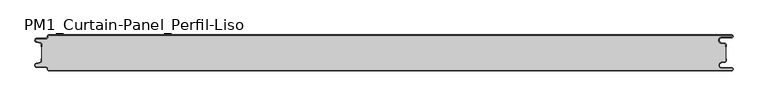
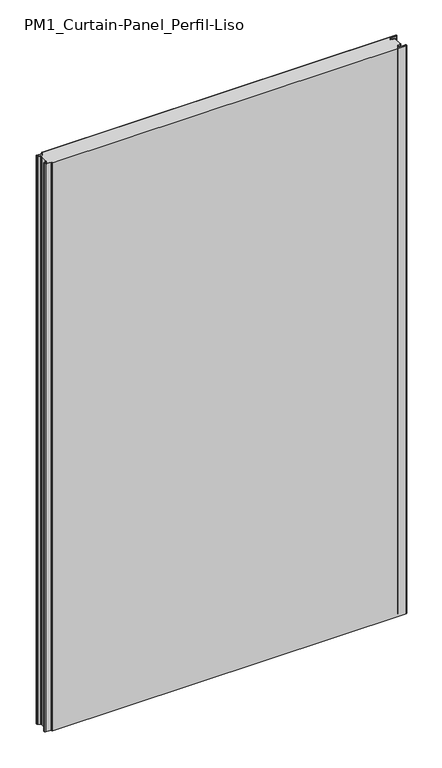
"""IFC4 building model written with IfcOpenShell, lengths in millimetres: plate geometry, PM1_Curtain-Panel_Perfil-Liso : ACH_PM1_Panel-Acústico-Sectorización_60M."""

import ifcopenshell
import ifcopenshell.guid

model = None  # the IFC model being written
_history = None  # IfcOwnerHistory: only IFC2X3 demands one
_inside = {}  # id of a spatial element -> (the spatial element, [elements in it])
_under = {}  # id of a project, library or spatial element -> (it, [spatial elements below it])
_declared = {}  # id of a project -> (the project, [libraries it declares])
_typed = {}  # id of a type object -> (the type object, [elements of that type])
_made_of = {}  # id of a material, layer set ... -> (it, [elements and type objects made of it])


def new_model(schema):
    """Start an empty IFC model of exactly this schema.

    Asked for "IFC4X3", IfcOpenShell would pick the latest addendum, in which some entities
    have other attributes; the version numbers below select the first issue.
    IFC2X3 requires an IfcOwnerHistory on every rooted entity: one is made here for all.
    """
    global model, _history
    if schema == "IFC4X3":
        model = ifcopenshell.file(schema_version=(4, 3, 0, 0))
    else:
        model = ifcopenshell.file(schema=schema)
    _inside.clear()
    _under.clear()
    _declared.clear()
    _typed.clear()
    _made_of.clear()
    _history = None
    if model.schema == "IFC2X3":
        org = make("IfcOrganization", Name="unknown")
        user = make(
            "IfcPersonAndOrganization",
            ThePerson=make("IfcPerson", FamilyName="unknown"),
            TheOrganization=org,
        )
        app = make(
            "IfcApplication",
            ApplicationDeveloper=org,
            Version="unknown",
            ApplicationFullName="unknown",
            ApplicationIdentifier="unknown",
        )
        _history = make(
            "IfcOwnerHistory",
            OwningUser=user,
            OwningApplication=app,
            ChangeAction="ADDED",
            CreationDate=0,
        )
    return model


def make(cls, **values):
    """One entity of the class cls with the attributes given. An attribute that is None is left unset."""
    return model.create_entity(
        cls, **{name: value for name, value in values.items() if value is not None}
    )


def rooted(cls, **values):
    """An entity with a GlobalId (a new one), such as an element, a storey or a relation."""
    return make(cls, GlobalId=ifcopenshell.guid.new(), OwnerHistory=_history, **values)


def si_unit(unit_type, name, prefix=None):
    """IfcSIUnit, for example si_unit("LENGTHUNIT", "METRE", prefix="MILLI")."""
    return make("IfcSIUnit", UnitType=unit_type, Prefix=prefix, Name=name)


def assignment(units):
    """IfcUnitAssignment: the units of a project."""
    return None if units is None else make("IfcUnitAssignment", Units=units)


def point(xyz):
    """IfcCartesianPoint."""
    return None if xyz is None else make("IfcCartesianPoint", Coordinates=xyz)


def direction(xyz):
    """IfcDirection."""
    return None if xyz is None else make("IfcDirection", DirectionRatios=xyz)


def frame(location, z_axis=None, x_axis=None):
    """IfcAxis2Placement3D, a coordinate frame: its origin and axes. An axis left out is left unset."""
    return make(
        "IfcAxis2Placement3D",
        Location=point(location),
        Axis=direction(z_axis),
        RefDirection=direction(x_axis),
    )


def frame_2d(location, x_axis=None):
    """IfcAxis2Placement2D, a coordinate frame in the plane: its origin and x axis."""
    return make(
        "IfcAxis2Placement2D", Location=point(location), RefDirection=direction(x_axis)
    )


def origin():
    """The frame at (0, 0, 0) with its axes left unset."""
    return frame((0.0, 0.0, 0.0))


def origin_with_axes():
    """The frame at (0, 0, 0) with the z axis (0, 0, 1) and the x axis (1, 0, 0) written out."""
    return frame((0.0, 0.0, 0.0), z_axis=(0.0, 0.0, 1.0), x_axis=(1.0, 0.0, 0.0))


def place(relative_to, where):
    """IfcLocalPlacement: puts the frame where relative to a parent placement (None: the world)."""
    return make(
        "IfcLocalPlacement", PlacementRelTo=relative_to, RelativePlacement=where
    )


def context(
    kind, dimensions, precision=None, world=None, true_north=None, identifier=None
):
    """IfcGeometricRepresentationContext, for example the 3D "Model" context."""
    return make(
        "IfcGeometricRepresentationContext",
        ContextIdentifier=identifier,
        ContextType=kind,
        CoordinateSpaceDimension=dimensions,
        Precision=precision,
        WorldCoordinateSystem=world,
        TrueNorth=true_north,
    )


def project(units=None, contexts=None):
    """IfcProject with its units and contexts."""
    return rooted(
        "IfcProject",
        Name="project",
        RepresentationContexts=contexts,
        UnitsInContext=assignment(units),
    )


def spatial(cls, under=None, at=None, **own):
    """A site, building, storey or space (cls), placed at a placement, below another one or the project."""
    s = rooted(cls, ObjectPlacement=at, **own)
    if under is not None:
        _under.setdefault(under.id(), (under, []))[1].append(s)
    return s


def polyline(points):
    """IfcPolyline through the points."""
    return make("IfcPolyline", Points=[point(p) for p in points])


def circle_curve(where, radius):
    """IfcCircle in the frame where."""
    return make("IfcCircle", Position=where, Radius=radius)


def trimmed(basis, trim1, trim2, sense, master):
    """IfcTrimmedCurve: the piece of a basis curve between two trims."""
    return make(
        "IfcTrimmedCurve",
        BasisCurve=basis,
        Trim1=trim1,
        Trim2=trim2,
        SenseAgreement=sense,
        MasterRepresentation=master,
    )


def segment(curve, same_sense, transition):
    """IfcCompositeCurveSegment."""
    return make(
        "IfcCompositeCurveSegment",
        Transition=transition,
        SameSense=same_sense,
        ParentCurve=curve,
    )


def composite_curve(segments, self_intersect=None):
    """IfcCompositeCurve: segments joined end to end."""
    return make("IfcCompositeCurve", Segments=segments, SelfIntersect=self_intersect)


def outline(outer, holes=None, kind="AREA"):
    """IfcArbitraryClosedProfileDef: a profile drawn as a closed curve; with holes, ...WithVoids."""
    if holes is None:
        return make("IfcArbitraryClosedProfileDef", ProfileType=kind, OuterCurve=outer)
    return make(
        "IfcArbitraryProfileDefWithVoids",
        ProfileType=kind,
        OuterCurve=outer,
        InnerCurves=holes,
    )


def extrude(swept, where, along, depth):
    """IfcExtrudedAreaSolid: the profile swept, set in the frame where, extruded along a direction by depth."""
    return make(
        "IfcExtrudedAreaSolid",
        SweptArea=swept,
        Position=where,
        ExtrudedDirection=direction(along),
        Depth=depth,
    )


def shape(context_of_items, identifier, shape_type, items):
    """IfcShapeRepresentation: the items that make up one representation, for example the "Body"."""
    return make(
        "IfcShapeRepresentation",
        ContextOfItems=context_of_items,
        RepresentationIdentifier=identifier,
        RepresentationType=shape_type,
        Items=items,
    )


def source(mapping_origin, context_of_items, identifier, shape_type, items):
    """IfcRepresentationMap: a shape defined once, which mapped items show again and again."""
    return make(
        "IfcRepresentationMap",
        MappingOrigin=mapping_origin,
        MappedRepresentation=shape(context_of_items, identifier, shape_type, items),
    )


def transform(
    local_origin,
    x_axis=None,
    y_axis=None,
    z_axis=None,
    scale=None,
    scale2=None,
    scale3=None,
    uniform=True,
):
    """IfcCartesianTransformationOperator3D, or its non-uniform kind. x_axis, y_axis, z_axis: its Axis1, 2, 3."""
    if uniform:
        return make(
            "IfcCartesianTransformationOperator3D",
            Axis1=direction(x_axis),
            Axis2=direction(y_axis),
            LocalOrigin=point(local_origin),
            Scale=scale,
            Axis3=direction(z_axis),
        )
    return make(
        "IfcCartesianTransformationOperator3DnonUniform",
        Axis1=direction(x_axis),
        Axis2=direction(y_axis),
        LocalOrigin=point(local_origin),
        Scale=scale,
        Axis3=direction(z_axis),
        Scale2=scale2,
        Scale3=scale3,
    )


def mapped(mapping_source, mapping_target):
    """IfcMappedItem: shows the shape of a source again, moved by a transform."""
    return make(
        "IfcMappedItem", MappingSource=mapping_source, MappingTarget=mapping_target
    )


def made_of(thing, what):
    """Note that an element or type object is made of a material, layer set ...; save() writes the relation."""
    if what is not None:
        _made_of.setdefault(what.id(), (what, []))[1].append(thing)
    return thing


def element(
    cls,
    number,
    at=None,
    inside=None,
    cuts=None,
    type_object=None,
    material=None,
    context=None,
    identifier="Body",
    shape_type=None,
    held_by="IfcProductDefinitionShape",
    body=None,
    shapes=None,
    **own,
):
    """One element of the class cls, such as IfcWall. Its Tag is "e" and its number.

    at: its placement. inside: the storey or other place that contains it. cuts: it is an
    opening in that element (IfcRelVoidsElement). A single representation is given by context,
    identifier, shape_type and body (its items); several are given by shapes. held_by: the class
    of the entity that holds the representations. save() writes the other relations.
    """
    e = rooted(cls, Tag="e%d" % number, ObjectPlacement=at, **own)
    if body is not None:
        shapes = [shape(context, identifier, shape_type, body)]
    if shapes is not None:
        e.Representation = make(held_by, Representations=shapes)
    if inside is not None:
        _inside.setdefault(inside.id(), (inside, []))[1].append(e)
    if cuts is not None:
        rooted(
            "IfcRelVoidsElement", RelatingBuildingElement=cuts, RelatedOpeningElement=e
        )
    if type_object is not None:
        _typed.setdefault(type_object.id(), (type_object, []))[1].append(e)
    return made_of(e, material)


def aggregate(whole, parts):
    """IfcRelAggregates: a whole, such as a stair, and the parts it consists of."""
    return rooted("IfcRelAggregates", RelatingObject=whole, RelatedObjects=parts)


def save(model, path):
    """Write the relations noted so far, then the file.

    IfcRelAggregates (storeys below a building ...), IfcRelContainedInSpatialStructure (elements
    in a storey), IfcRelDefinesByType, IfcRelAssociatesMaterial and IfcRelDeclares: one each for
    every whole, place, type object, material and project.
    """
    for whole, parts in _under.values():
        aggregate(whole, parts)
    for where, things in _inside.values():
        rooted(
            "IfcRelContainedInSpatialStructure",
            RelatedElements=things,
            RelatingStructure=where,
        )
    for kind, things in _typed.values():
        rooted("IfcRelDefinesByType", RelatedObjects=things, RelatingType=kind)
    for what, things in _made_of.values():
        rooted("IfcRelAssociatesMaterial", RelatedObjects=things, RelatingMaterial=what)
    for by, libraries in _declared.values():
        rooted("IfcRelDeclares", RelatingContext=by, RelatedDefinitions=libraries)
    model.write(path)


def plane_surface(at):
    """IfcPlane: the flat surface through the origin of the frame at, square to its z axis."""
    return make("IfcPlane", Position=at)


def cylinder_surface(at, radius):
    """IfcCylindricalSurface: all points at the distance radius from the z axis of the frame at."""
    return make("IfcCylindricalSurface", Position=at, Radius=radius)


def revolved_surface(curve, axis_point, axis_direction):
    """IfcSurfaceOfRevolution: the curve turned about the line through axis_point along axis_direction."""
    return make(
        "IfcSurfaceOfRevolution",
        SweptCurve=make("IfcArbitraryOpenProfileDef", ProfileType="CURVE", Curve=curve),
        AxisPosition=make("IfcAxis1Placement", Location=point(axis_point), Axis=direction(axis_direction)),
    )


def advanced_brep(points, edges, surfaces, faces):
    """IfcAdvancedBrep: a solid bounded by faces that lie on surfaces and meet in shared edges.

    An edge is (start, end): straight between two places in points (the first is 0);
    or (start, end, curve); or (start, end, curve, False) where it runs against its curve.
    A face is (place in surfaces, loops), or (place, loops, False) where it looks against
    its surface's normal. A loop lists edges by number (the first is 1), with a minus sign
    where the edge is run from its end to its start. The first loop is the outer one.
    """
    corners = [point(p) for p in points]
    vertices = [make("IfcVertexPoint", VertexGeometry=c) for c in corners]
    made = []
    for start, end, *more in edges:
        made.append(
            make(
                "IfcEdgeCurve",
                EdgeStart=vertices[start],
                EdgeEnd=vertices[end],
                EdgeGeometry=more[0] if more else make("IfcPolyline", Points=[corners[start], corners[end]]),
                SameSense=more[1] if len(more) > 1 else True,
            )
        )
    hull = []
    for where, loops, *sense in faces:
        bounds = []
        for j, loop in enumerate(loops):
            ring = [make("IfcOrientedEdge", EdgeElement=made[abs(k) - 1], Orientation=k > 0) for k in loop]
            bounds.append(
                make(
                    "IfcFaceOuterBound" if j == 0 else "IfcFaceBound",
                    Bound=make("IfcEdgeLoop", EdgeList=ring),
                    Orientation=True,
                )
            )
        hull.append(make("IfcAdvancedFace", Bounds=bounds, FaceSurface=surfaces[where], SameSense=sense[0] if sense else True))
    return make("IfcAdvancedBrep", Outer=make("IfcClosedShell", CfsFaces=hull))


def pm1_curtain_panel_perfil_liso_60ec96a5(model_context):
    return source(origin(), model_context, "Body", "SolidModel", [
        advanced_brep(
        [(583.1, 0.0, 1945.7507136), (-562.4, 0.0, 1945.7507136), (-564.4, -2.0, 1945.7507136), (-564.4, -3.4, 1945.7507136), (-566.4, -5.4, 1945.7507136), (-581.9, -5.4, 1945.7507136), (-582.7098239, -12.5077322, 1945.7507136), (-576.5500979, -13.929817, 1945.7507136), (-575.0, -15.878557, 1945.7507136), (-575.0, -20.0, 1945.7507136), (-574.2, -20.0, 1945.7507136), (-574.2, -15.878557, 1945.7507136), (-576.370137, -13.1503208, 1945.7507136), (-582.529863, -11.728236, 1945.7507136), (-581.9, -6.2, 1945.7507136), (-566.4, -6.2, 1945.7507136), (-563.6, -3.4, 1945.7507136), (-563.6, -2.0, 1945.7507136), (-562.4, -0.8, 1945.7507136), (583.1, -0.8, 1945.7507136), (583.1, -4.2, 1945.7507136), (566.1, -4.2, 1945.7507136), (565.266489, -13.7270773, 1945.7507136), (571.7125666, -14.8636942, 1945.7507136), (573.2, -16.636348, 1945.7507136), (573.2, -20.0, 1945.7507136), (574.0, -20.0, 1945.7507136), (574.0, -16.636348, 1945.7507136), (571.8514851, -14.0758478, 1945.7507136), (565.4054075, -12.9392309, 1945.7507136), (566.1, -5.0, 1945.7507136), (583.1, -5.0, 1945.7507136), (585.6, -2.5, 1945.7507136), (-562.4, 0.0, 0.0), (583.1, 0.0, 0.0), (585.6, -2.5, 0.0), (583.1, -5.0, 0.0), (566.1, -5.0, 0.0), (565.4054075, -12.939231, 0.0), (571.8514851, -14.075848, 0.0), (574.0, -16.636348, 0.0), (574.0, -20.0, 0.0), (573.2, -20.0, 0.0), (573.2, -16.636348, 0.0), (571.7125666, -14.863694, 0.0), (565.266489, -13.7270771, 0.0), (566.1, -4.2, 0.0), (583.1, -4.2, 0.0), (583.1, -0.8, 0.0), (-562.4, -0.8, 0.0), (-563.6, -2.0, 0.0), (-563.6, -3.4, 0.0), (-566.4, -6.2, 0.0), (-581.9, -6.2, 0.0), (-582.529863, -11.7282362, 0.0), (-576.370137, -13.150321, 0.0), (-574.2, -15.878557, 0.0), (-574.2, -20.0, 0.0), (-575.0, -20.0, 0.0), (-575.0, -15.878557, 0.0), (-576.5500978, -13.9298169, 0.0), (-582.7098239, -12.507732, 0.0), (-581.9, -5.4, 0.0), (-566.4, -5.4, 0.0), (-564.4, -3.4, 0.0), (-564.4, -2.0, 0.0)],
        [
            (0, 1),
            (1, 2, circle_curve(frame((-562.4, -2.0, 1945.7507136), z_axis=(0.0, 0.0, 1.0), x_axis=(1.0, 0.0, 0.0)), 2.0)),
            (2, 3),
            (3, 4, circle_curve(frame((-566.4, -3.4, 1945.7507136), z_axis=(0.0, 0.0, -1.0), x_axis=(1.0, 0.0, 0.0)), 2.0)),
            (4, 5),
            (5, 6, circle_curve(frame((-581.9, -9.0, 1945.7507136), z_axis=(0.0, 0.0, 1.0), x_axis=(1.0, 0.0, 0.0)), 3.6)),
            (6, 7),
            (7, 8, circle_curve(frame((-577.0, -15.878557, 1945.7507136), z_axis=(0.0, 0.0, -1.0), x_axis=(1.0, 0.0, 0.0)), 2.0)),
            (8, 9),
            (9, 10),
            (10, 11),
            (11, 12, circle_curve(frame((-577.0, -15.878557, 1945.7507136), z_axis=(0.0, 0.0, 1.0), x_axis=(1.0, 0.0, 0.0)), 2.8)),
            (12, 13),
            (13, 14, circle_curve(frame((-581.9, -9.0, 1945.7507136), z_axis=(0.0, 0.0, -1.0), x_axis=(1.0, 0.0, 0.0)), 2.8)),
            (14, 15),
            (15, 16, circle_curve(frame((-566.4, -3.4, 1945.7507136), z_axis=(0.0, 0.0, 1.0), x_axis=(1.0, 0.0, 0.0)), 2.8)),
            (16, 17),
            (17, 18, circle_curve(frame((-562.4, -2.0, 1945.7507136), z_axis=(0.0, 0.0, -1.0), x_axis=(1.0, 0.0, 0.0)), 1.2)),
            (18, 19),
            (19, 20, circle_curve(frame((583.1, -2.5, 1945.7507136), z_axis=(0.0, 0.0, -1.0), x_axis=(1.0, 0.0, 0.0)), 1.7)),
            (20, 21),
            (21, 22, circle_curve(frame((566.1, -9.0, 1945.7507136), z_axis=(0.0, 0.0, 1.0), x_axis=(1.0, 0.0, 0.0)), 4.8)),
            (22, 23),
            (23, 24, circle_curve(frame((571.4, -16.636348, 1945.7507136), z_axis=(0.0, 0.0, -1.0), x_axis=(1.0, 0.0, 0.0)), 1.8)),
            (24, 25),
            (25, 26),
            (26, 27),
            (27, 28, circle_curve(frame((571.4, -16.636348, 1945.7507136), z_axis=(0.0, 0.0, 1.0), x_axis=(1.0, 0.0, 0.0)), 2.6)),
            (28, 29),
            (29, 30, circle_curve(frame((566.1, -9.0, 1945.7507136), z_axis=(0.0, 0.0, -1.0), x_axis=(1.0, 0.0, 0.0)), 4.0)),
            (30, 31),
            (31, 32, circle_curve(frame((583.1, -2.5, 1945.7507136), z_axis=(0.0, 0.0, 1.0), x_axis=(1.0, 0.0, 0.0)), 2.5)),
            (32, 0, circle_curve(frame((583.1, -2.5, 1945.7507136), z_axis=(0.0, 0.0, 1.0), x_axis=(1.0, 0.0, 0.0)), 2.5)),
            (33, 34),
            (34, 35, circle_curve(frame((583.1, -2.5, 0.0), z_axis=(0.0, 0.0, -1.0), x_axis=(1.0, 0.0, 0.0)), 2.5)),
            (35, 36, circle_curve(frame((583.1, -2.5, 0.0), z_axis=(0.0, 0.0, -1.0), x_axis=(1.0, 0.0, 0.0)), 2.5)),
            (36, 37),
            (37, 38, circle_curve(frame((566.1, -9.0, 0.0), z_axis=(0.0, 0.0, 1.0), x_axis=(1.0, 0.0, 0.0)), 4.0)),
            (38, 39),
            (39, 40, circle_curve(frame((571.4, -16.636348, 0.0), z_axis=(0.0, 0.0, -1.0), x_axis=(1.0, 0.0, 0.0)), 2.6)),
            (40, 41),
            (41, 42),
            (42, 43),
            (43, 44, circle_curve(frame((571.4, -16.636348, 0.0), z_axis=(0.0, 0.0, 1.0), x_axis=(1.0, 0.0, 0.0)), 1.8)),
            (44, 45),
            (45, 46, circle_curve(frame((566.1, -9.0, 0.0), z_axis=(0.0, 0.0, -1.0), x_axis=(1.0, 0.0, 0.0)), 4.8)),
            (46, 47),
            (47, 48, circle_curve(frame((583.1, -2.5, 0.0), z_axis=(0.0, 0.0, 1.0), x_axis=(1.0, 0.0, 0.0)), 1.7)),
            (48, 49),
            (49, 50, circle_curve(frame((-562.4, -2.0, 0.0), z_axis=(0.0, 0.0, 1.0), x_axis=(1.0, 0.0, 0.0)), 1.2)),
            (50, 51),
            (51, 52, circle_curve(frame((-566.4, -3.4, 0.0), z_axis=(0.0, 0.0, -1.0), x_axis=(1.0, 0.0, 0.0)), 2.8)),
            (52, 53),
            (53, 54, circle_curve(frame((-581.9, -9.0, 0.0), z_axis=(0.0, 0.0, 1.0), x_axis=(1.0, 0.0, 0.0)), 2.8)),
            (54, 55),
            (55, 56, circle_curve(frame((-577.0, -15.878557, 0.0), z_axis=(0.0, 0.0, -1.0), x_axis=(1.0, 0.0, 0.0)), 2.8)),
            (56, 57),
            (57, 58),
            (58, 59),
            (59, 60, circle_curve(frame((-577.0, -15.878557, 0.0), z_axis=(0.0, 0.0, 1.0), x_axis=(1.0, 0.0, 0.0)), 2.0)),
            (60, 61),
            (61, 62, circle_curve(frame((-581.9, -9.0, 0.0), z_axis=(0.0, 0.0, -1.0), x_axis=(1.0, 0.0, 0.0)), 3.6)),
            (62, 63),
            (63, 64, circle_curve(frame((-566.4, -3.4, 0.0), z_axis=(0.0, 0.0, 1.0), x_axis=(1.0, 0.0, 0.0)), 2.0)),
            (64, 65),
            (65, 33, circle_curve(frame((-562.4, -2.0, 0.0), z_axis=(0.0, 0.0, -1.0), x_axis=(1.0, 0.0, 0.0)), 2.0)),
            (1, 33),
            (65, 2),
            (64, 3),
            (63, 4),
            (62, 5),
            (61, 6),
            (60, 7),
            (59, 8),
            (58, 9),
            (57, 10),
            (56, 11),
            (55, 12),
            (54, 13),
            (53, 14),
            (52, 15),
            (51, 16),
            (50, 17),
            (49, 18),
            (48, 19),
            (47, 20),
            (46, 21),
            (45, 22),
            (44, 23),
            (43, 24),
            (42, 25),
            (41, 26),
            (40, 27),
            (39, 28),
            (38, 29),
            (37, 30),
            (36, 31),
            (34, 0),
        ],
        [
            plane_surface(frame((-575.0, 0.0, 1945.7507136), z_axis=(0.0, 0.0, 1.0), x_axis=(0.0, 1.0, 0.0))),
            plane_surface(frame((-575.0, 0.0, 0.0), z_axis=(0.0, 0.0, -1.0), x_axis=(0.0, 1.0, 0.0))),
            cylinder_surface(frame((-562.4, -2.0, 1945.7507136), z_axis=(0.0, 0.0, 1.0), x_axis=(1.0, 0.0, 0.0)), 2.0),
            plane_surface(frame((-564.4, -2.0, 1945.7507136), z_axis=(-1.0, 0.0, 0.0), x_axis=(0.0, 0.0, -1.0))),
            revolved_surface(polyline([(-564.4, -3.4, 0.0), (-564.4, -3.4, 1945.7507136)]), (-566.4, -3.4, 1945.7507136), (0.0, 0.0, -1.0)),
            plane_surface(frame((-566.4, -5.4, 1945.7507136), z_axis=(0.0, 1.0, 0.0), x_axis=(0.0, 0.0, -1.0))),
            cylinder_surface(frame((-581.9, -9.0, 1945.7507136), z_axis=(0.0, 0.0, 1.0), x_axis=(1.0, 0.0, 0.0)), 3.6),
            plane_surface(frame((-582.7098239, -12.507732, 1945.7507136), z_axis=(-0.2249510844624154, -0.9743700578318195, 0.0), x_axis=(0.0, 0.0, -1.0))),
            revolved_surface(polyline([(-575.0, -15.878557, 0.0), (-575.0, -15.878557, 1945.7507136)]), (-577.0, -15.878557, 1945.7507136), (0.0, 0.0, -1.0)),
            plane_surface(frame((-575.0, -15.878557, 1945.7507136), z_axis=(-1.0, 0.0, 0.0), x_axis=(0.0, 0.0, -1.0))),
            plane_surface(frame((-575.0, -20.0, 1945.7507136), z_axis=(0.0, -1.0, 0.0), x_axis=(0.0, 0.0, -1.0))),
            plane_surface(frame((-574.2, -20.0, 1945.7507136), z_axis=(1.0, 0.0, 0.0), x_axis=(0.0, 0.0, -1.0))),
            cylinder_surface(frame((-577.0, -15.878557, 1945.7507136), z_axis=(0.0, 0.0, 1.0), x_axis=(1.0, 0.0, 0.0)), 2.8),
            plane_surface(frame((-576.370137, -13.150321, 1945.7507136), z_axis=(0.22495108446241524, 0.9743700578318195, 0.0), x_axis=(0.0, 0.0, -1.0))),
            revolved_surface(polyline([(-579.1, -9.0, 0.0), (-579.1, -9.0, 1945.7507136)]), (-581.9, -9.0, 1945.7507136), (0.0, 0.0, -1.0)),
            plane_surface(frame((-581.9, -6.2, 1945.7507136), z_axis=(0.0, -1.0, 0.0), x_axis=(0.0, 0.0, -1.0))),
            cylinder_surface(frame((-566.4, -3.4, 1945.7507136), z_axis=(0.0, 0.0, 1.0), x_axis=(1.0, 0.0, 0.0)), 2.8),
            plane_surface(frame((-563.6, -3.4, 1945.7507136), z_axis=(1.0, 0.0, 0.0), x_axis=(0.0, 0.0, -1.0))),
            revolved_surface(polyline([(-561.1999999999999, -2.0, 0.0), (-561.1999999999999, -2.0, 1945.7507136)]), (-562.4, -2.0, 1945.7507136), (0.0, 0.0, -1.0)),
            plane_surface(frame((560.890897, -0.8, 1945.7507136), z_axis=(0.0, -1.0, 0.0), x_axis=(0.0, 0.0, -1.0))),
            revolved_surface(polyline([(584.8000000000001, -2.5, 0.0), (584.8000000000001, -2.5, 1945.7507136)]), (583.1, -2.5, 1945.7507136), (0.0, 0.0, -1.0)),
            plane_surface(frame((583.1, -4.2, 1945.7507136), z_axis=(0.0, 1.0, 0.0), x_axis=(0.0, 0.0, -1.0))),
            cylinder_surface(frame((566.1, -9.0, 1945.7507136), z_axis=(0.0, 0.0, 1.0), x_axis=(1.0, 0.0, 0.0)), 4.8),
            plane_surface(frame((565.266489, -13.7270771, 1945.7507136), z_axis=(-0.1736481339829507, -0.9848077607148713, 0.0), x_axis=(0.0, 0.0, -1.0))),
            revolved_surface(polyline([(573.1999999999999, -16.636348, 0.0), (573.1999999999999, -16.636348, 1945.7507136)]), (571.4, -16.636348, 1945.7507136), (0.0, 0.0, -1.0)),
            plane_surface(frame((573.2, -16.636348, 1945.7507136), z_axis=(-1.0, 0.0, 0.0), x_axis=(0.0, 0.0, -1.0))),
            plane_surface(frame((573.2, -20.0, 1945.7507136), z_axis=(0.0, -1.0, 0.0), x_axis=(0.0, 0.0, -1.0))),
            plane_surface(frame((574.0, -20.0, 1945.7507136), z_axis=(1.0, 0.0, 0.0), x_axis=(0.0, 0.0, -1.0))),
            cylinder_surface(frame((571.4, -16.636348, 1945.7507136), z_axis=(0.0, 0.0, 1.0), x_axis=(1.0, 0.0, 0.0)), 2.6),
            plane_surface(frame((571.8514851, -14.075848, 1945.7507136), z_axis=(0.17364813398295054, 0.9848077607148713, 0.0), x_axis=(0.0, 0.0, -1.0))),
            revolved_surface(polyline([(570.1, -9.0, 0.0), (570.1, -9.0, 1945.7507136)]), (566.1, -9.0, 1945.7507136), (0.0, 0.0, -1.0)),
            plane_surface(frame((566.1, -5.0, 1945.7507136), z_axis=(0.0, -1.0, 0.0), x_axis=(0.0, 0.0, -1.0))),
            cylinder_surface(frame((583.1, -2.5, 1945.7507136), z_axis=(0.0, 0.0, 1.0), x_axis=(1.0, 0.0, 0.0)), 2.5),
            plane_surface(frame((510.5961529, 0.0, 1945.7507136), z_axis=(0.0, 1.0, 0.0), x_axis=(0.0, 0.0, -1.0))),
        ],
        [
            (0, [[1, 2, 3, 4, 5, 6, 7, 8, 9, 10, 11, 12, 13, 14, 15, 16, 17, 18, 19, 20, 21, 22, 23, 24, 25, 26, 27, 28, 29, 30, 31, 32, 33]]),
            (1, [[34, 35, 36, 37, 38, 39, 40, 41, 42, 43, 44, 45, 46, 47, 48, 49, 50, 51, 52, 53, 54, 55, 56, 57, 58, 59, 60, 61, 62, 63, 64, 65, 66]]),
            (2, [[-2, 67, -66, 68]]),
            (3, [[-3, -68, -65, 69]]),
            (4, [[-4, -69, -64, 70]]),
            (5, [[-5, -70, -63, 71]]),
            (6, [[-6, -71, -62, 72]]),
            (7, [[-7, -72, -61, 73]]),
            (8, [[-8, -73, -60, 74]]),
            (9, [[-9, -74, -59, 75]]),
            (10, [[-10, -75, -58, 76]]),
            (11, [[-11, -76, -57, 77]]),
            (12, [[-12, -77, -56, 78]]),
            (13, [[-13, -78, -55, 79]]),
            (14, [[-14, -79, -54, 80]]),
            (15, [[-15, -80, -53, 81]]),
            (16, [[-16, -81, -52, 82]]),
            (17, [[-17, -82, -51, 83]]),
            (18, [[-18, -83, -50, 84]]),
            (19, [[-19, -84, -49, 85]]),
            (20, [[-20, -85, -48, 86]]),
            (21, [[-21, -86, -47, 87]]),
            (22, [[-22, -87, -46, 88]]),
            (23, [[-23, -88, -45, 89]]),
            (24, [[-24, -89, -44, 90]]),
            (25, [[-25, -90, -43, 91]]),
            (26, [[-26, -91, -42, 92]]),
            (27, [[-27, -92, -41, 93]]),
            (28, [[-28, -93, -40, 94]]),
            (29, [[-29, -94, -39, 95]]),
            (30, [[-30, -95, -38, 96]]),
            (31, [[-31, -96, -37, 97]]),
            (32, [[-97, -36, -35, 98, -33, -32]]),
            (33, [[-1, -98, -34, -67]]),
        ],
    ),
        extrude(outline(composite_curve([segment(polyline([(-574.2, -44.1214426), (-574.2, -15.8785573)]), True, "CONTINUOUS"), segment(trimmed(circle_curve(frame_2d((-577.0, -15.8785573)), 2.8), [point((-574.2, -15.8785573))], [point((-576.370137, -13.1503212))], True, "CARTESIAN"), True, "CONTINUOUS"), segment(polyline([(-576.370137, -13.1503212), (-582.5298631, -11.7282362)]), True, "CONTINUOUS"), segment(trimmed(circle_curve(frame_2d((-581.9, -9.0)), 2.8), [point((-582.5298631, -11.7282362))], [point((-581.9, -6.2))], False, "CARTESIAN"), True, "CONTINUOUS"), segment(polyline([(-581.9, -6.2), (-566.4000001, -6.2)]), True, "CONTINUOUS"), segment(trimmed(circle_curve(frame_2d((-566.4000001, -3.4)), 2.8), [point((-566.4000001, -6.2))], [point((-563.6000001, -3.4))], True, "CARTESIAN"), True, "CONTINUOUS"), segment(polyline([(-563.6000001, -3.4), (-563.6000001, -2.0)]), True, "CONTINUOUS"), segment(trimmed(circle_curve(frame_2d((-562.4000001, -2.0)), 1.2), [point((-563.6000001, -2.0))], [point((-562.4000001, -0.8))], False, "CARTESIAN"), True, "CONTINUOUS"), segment(polyline([(-562.4000001, -0.8), (583.1, -0.8)]), True, "CONTINUOUS"), segment(trimmed(circle_curve(frame_2d((583.1, -2.5)), 1.7), [point((583.1, -0.8))], [point((583.1, -4.2))], False, "CARTESIAN"), True, "CONTINUOUS"), segment(polyline([(583.1, -4.2), (566.1, -4.2)]), True, "CONTINUOUS"), segment(trimmed(circle_curve(frame_2d((566.1, -9.0)), 4.8), [point((566.1, -4.2))], [point((565.2664883, -13.7270771))], True, "CARTESIAN"), True, "CONTINUOUS"), segment(polyline([(565.2664883, -13.7270771), (571.7125668, -14.8636953)]), True, "CONTINUOUS"), segment(trimmed(circle_curve(frame_2d((571.4, -16.6363492)), 1.8), [point((571.7125668, -14.8636953))], [point((573.2, -16.6363492))], False, "CARTESIAN"), True, "CONTINUOUS"), segment(polyline([(573.2, -16.6363492), (573.2, -43.3636508)]), True, "CONTINUOUS"), segment(trimmed(circle_curve(frame_2d((571.4, -43.3636508)), 1.8), [point((573.2, -43.3636508))], [point((571.7125668, -45.1363047))], False, "CARTESIAN"), True, "CONTINUOUS"), segment(polyline([(571.7125668, -45.1363047), (565.2664883, -46.2729229)]), True, "CONTINUOUS"), segment(trimmed(circle_curve(frame_2d((566.1, -51.0)), 4.8), [point((565.2664883, -46.2729229))], [point((566.1, -55.8))], True, "CARTESIAN"), True, "CONTINUOUS"), segment(polyline([(566.1, -55.8), (583.1, -55.8)]), True, "CONTINUOUS"), segment(trimmed(circle_curve(frame_2d((583.1, -57.5)), 1.7), [point((583.1, -55.8))], [point((583.1, -59.2))], False, "CARTESIAN"), True, "CONTINUOUS"), segment(polyline([(583.1, -59.2), (-562.4000001, -59.2)]), True, "CONTINUOUS"), segment(trimmed(circle_curve(frame_2d((-562.4000001, -58.0)), 1.2), [point((-562.4000001, -59.2))], [point((-563.6000001, -58.0))], False, "CARTESIAN"), True, "CONTINUOUS"), segment(polyline([(-563.6000001, -58.0), (-563.6000001, -56.6)]), True, "CONTINUOUS"), segment(trimmed(circle_curve(frame_2d((-566.4000001, -56.6)), 2.8), [point((-563.6000001, -56.6))], [point((-566.4000001, -53.8))], True, "CARTESIAN"), True, "CONTINUOUS"), segment(polyline([(-566.4000001, -53.8), (-581.9, -53.8)]), True, "CONTINUOUS"), segment(trimmed(circle_curve(frame_2d((-581.9, -51.0)), 2.8), [point((-581.9, -53.8))], [point((-582.5298631, -48.2717638))], False, "CARTESIAN"), True, "CONTINUOUS"), segment(polyline([(-582.5298631, -48.2717638), (-576.370137, -46.8496788)]), True, "CONTINUOUS"), segment(trimmed(circle_curve(frame_2d((-577.0, -44.1214426)), 2.8), [point((-576.370137, -46.8496788))], [point((-574.2, -44.1214426))], True, "CARTESIAN"), True, "CONTINUOUS")], self_intersect=False)), origin_with_axes(), (0.0, 0.0, 1.0), 1945.7507136),
        advanced_brep(
        [(-562.4, -60.0, 1945.7507136), (583.1, -60.0, 1945.7507136), (585.6, -57.5, 1945.7507136), (583.1, -55.0, 1945.7507136), (566.1, -55.0, 1945.7507136), (565.4054075, -47.060769, 1945.7507136), (571.8514851, -45.924152, 1945.7507136), (574.0, -43.363652, 1945.7507136), (574.0, -40.0, 1945.7507136), (573.2, -40.0, 1945.7507136), (573.2, -43.363652, 1945.7507136), (571.7125666, -45.136306, 1945.7507136), (565.266489, -46.2729229, 1945.7507136), (566.1, -55.8, 1945.7507136), (583.1, -55.8, 1945.7507136), (583.1, -59.2, 1945.7507136), (-562.4, -59.2, 1945.7507136), (-563.6, -58.0, 1945.7507136), (-563.6, -56.6, 1945.7507136), (-566.4, -53.8, 1945.7507136), (-581.9, -53.8, 1945.7507136), (-582.529863, -48.2717638, 1945.7507136), (-576.370137, -46.849679, 1945.7507136), (-574.2, -44.121443, 1945.7507136), (-574.2, -40.0, 1945.7507136), (-575.0, -40.0, 1945.7507136), (-575.0, -44.121443, 1945.7507136), (-576.5500978, -46.0701831, 1945.7507136), (-582.7098239, -47.492268, 1945.7507136), (-581.9, -54.6, 1945.7507136), (-566.4, -54.6, 1945.7507136), (-564.4, -56.6, 1945.7507136), (-564.4, -58.0, 1945.7507136), (583.1, -60.0, 0.0), (-562.4, -60.0, 0.0), (-564.4, -58.0, 0.0), (-564.4, -56.6, 0.0), (-566.4, -54.6, 0.0), (-581.9, -54.6, 0.0), (-582.7098239, -47.4922678, 0.0), (-576.5500979, -46.070183, 0.0), (-575.0, -44.121443, 0.0), (-575.0, -40.0, 0.0), (-574.2, -40.0, 0.0), (-574.2, -44.121443, 0.0), (-576.370137, -46.8496792, 0.0), (-582.529863, -48.271764, 0.0), (-581.9, -53.8, 0.0), (-566.4, -53.8, 0.0), (-563.6, -56.6, 0.0), (-563.6, -58.0, 0.0), (-562.4, -59.2, 0.0), (583.1, -59.2, 0.0), (583.1, -55.8, 0.0), (566.1, -55.8, 0.0), (565.266489, -46.2729227, 0.0), (571.7125666, -45.1363058, 0.0), (573.2, -43.363652, 0.0), (573.2, -40.0, 0.0), (574.0, -40.0, 0.0), (574.0, -43.363652, 0.0), (571.8514851, -45.9241522, 0.0), (565.4054075, -47.0607691, 0.0), (566.1, -55.0, 0.0), (583.1, -55.0, 0.0), (585.6, -57.5, 0.0)],
        [
            (0, 1),
            (1, 2, circle_curve(frame((583.1, -57.5, 1945.7507136), z_axis=(0.0, 0.0, 1.0), x_axis=(1.0, 0.0, 0.0)), 2.5)),
            (2, 3, circle_curve(frame((583.1, -57.5, 1945.7507136), z_axis=(0.0, 0.0, 1.0), x_axis=(1.0, 0.0, 0.0)), 2.5)),
            (3, 4),
            (4, 5, circle_curve(frame((566.1, -51.0, 1945.7507136), z_axis=(0.0, 0.0, -1.0), x_axis=(1.0, 0.0, 0.0)), 4.0)),
            (5, 6),
            (6, 7, circle_curve(frame((571.4, -43.363652, 1945.7507136), z_axis=(0.0, 0.0, 1.0), x_axis=(1.0, 0.0, 0.0)), 2.6)),
            (7, 8),
            (8, 9),
            (9, 10),
            (10, 11, circle_curve(frame((571.4, -43.363652, 1945.7507136), z_axis=(0.0, 0.0, -1.0), x_axis=(1.0, 0.0, 0.0)), 1.8)),
            (11, 12),
            (12, 13, circle_curve(frame((566.1, -51.0, 1945.7507136), z_axis=(0.0, 0.0, 1.0), x_axis=(1.0, 0.0, 0.0)), 4.8)),
            (13, 14),
            (14, 15, circle_curve(frame((583.1, -57.5, 1945.7507136), z_axis=(0.0, 0.0, -1.0), x_axis=(1.0, 0.0, 0.0)), 1.7)),
            (15, 16),
            (16, 17, circle_curve(frame((-562.4, -58.0, 1945.7507136), z_axis=(0.0, 0.0, -1.0), x_axis=(1.0, 0.0, 0.0)), 1.2)),
            (17, 18),
            (18, 19, circle_curve(frame((-566.4, -56.6, 1945.7507136), z_axis=(0.0, 0.0, 1.0), x_axis=(1.0, 0.0, 0.0)), 2.8)),
            (19, 20),
            (20, 21, circle_curve(frame((-581.9, -51.0, 1945.7507136), z_axis=(0.0, 0.0, -1.0), x_axis=(1.0, 0.0, 0.0)), 2.8)),
            (21, 22),
            (22, 23, circle_curve(frame((-577.0, -44.121443, 1945.7507136), z_axis=(0.0, 0.0, 1.0), x_axis=(1.0, 0.0, 0.0)), 2.8)),
            (23, 24),
            (24, 25),
            (25, 26),
            (26, 27, circle_curve(frame((-577.0, -44.121443, 1945.7507136), z_axis=(0.0, 0.0, -1.0), x_axis=(1.0, 0.0, 0.0)), 2.0)),
            (27, 28),
            (28, 29, circle_curve(frame((-581.9, -51.0, 1945.7507136), z_axis=(0.0, 0.0, 1.0), x_axis=(1.0, 0.0, 0.0)), 3.6)),
            (29, 30),
            (30, 31, circle_curve(frame((-566.4, -56.6, 1945.7507136), z_axis=(0.0, 0.0, -1.0), x_axis=(1.0, 0.0, 0.0)), 2.0)),
            (31, 32),
            (32, 0, circle_curve(frame((-562.4, -58.0, 1945.7507136), z_axis=(0.0, 0.0, 1.0), x_axis=(1.0, 0.0, 0.0)), 2.0)),
            (33, 34),
            (34, 35, circle_curve(frame((-562.4, -58.0, 0.0), z_axis=(0.0, 0.0, -1.0), x_axis=(1.0, 0.0, 0.0)), 2.0)),
            (35, 36),
            (36, 37, circle_curve(frame((-566.4, -56.6, 0.0), z_axis=(0.0, 0.0, 1.0), x_axis=(1.0, 0.0, 0.0)), 2.0)),
            (37, 38),
            (38, 39, circle_curve(frame((-581.9, -51.0, 0.0), z_axis=(0.0, 0.0, -1.0), x_axis=(1.0, 0.0, 0.0)), 3.6)),
            (39, 40),
            (40, 41, circle_curve(frame((-577.0, -44.121443, 0.0), z_axis=(0.0, 0.0, 1.0), x_axis=(1.0, 0.0, 0.0)), 2.0)),
            (41, 42),
            (42, 43),
            (43, 44),
            (44, 45, circle_curve(frame((-577.0, -44.121443, 0.0), z_axis=(0.0, 0.0, -1.0), x_axis=(1.0, 0.0, 0.0)), 2.8)),
            (45, 46),
            (46, 47, circle_curve(frame((-581.9, -51.0, 0.0), z_axis=(0.0, 0.0, 1.0), x_axis=(1.0, 0.0, 0.0)), 2.8)),
            (47, 48),
            (48, 49, circle_curve(frame((-566.4, -56.6, 0.0), z_axis=(0.0, 0.0, -1.0), x_axis=(1.0, 0.0, 0.0)), 2.8)),
            (49, 50),
            (50, 51, circle_curve(frame((-562.4, -58.0, 0.0), z_axis=(0.0, 0.0, 1.0), x_axis=(1.0, 0.0, 0.0)), 1.2)),
            (51, 52),
            (52, 53, circle_curve(frame((583.1, -57.5, 0.0), z_axis=(0.0, 0.0, 1.0), x_axis=(1.0, 0.0, 0.0)), 1.7)),
            (53, 54),
            (54, 55, circle_curve(frame((566.1, -51.0, 0.0), z_axis=(0.0, 0.0, -1.0), x_axis=(1.0, 0.0, 0.0)), 4.8)),
            (55, 56),
            (56, 57, circle_curve(frame((571.4, -43.363652, 0.0), z_axis=(0.0, 0.0, 1.0), x_axis=(1.0, 0.0, 0.0)), 1.8)),
            (57, 58),
            (58, 59),
            (59, 60),
            (60, 61, circle_curve(frame((571.4, -43.363652, 0.0), z_axis=(0.0, 0.0, -1.0), x_axis=(1.0, 0.0, 0.0)), 2.6)),
            (61, 62),
            (62, 63, circle_curve(frame((566.1, -51.0, 0.0), z_axis=(0.0, 0.0, 1.0), x_axis=(1.0, 0.0, 0.0)), 4.0)),
            (63, 64),
            (64, 65, circle_curve(frame((583.1, -57.5, 0.0), z_axis=(0.0, 0.0, -1.0), x_axis=(1.0, 0.0, 0.0)), 2.5)),
            (65, 33, circle_curve(frame((583.1, -57.5, 0.0), z_axis=(0.0, 0.0, -1.0), x_axis=(1.0, 0.0, 0.0)), 2.5)),
            (0, 34),
            (33, 1),
            (64, 3),
            (63, 4),
            (62, 5),
            (61, 6),
            (60, 7),
            (59, 8),
            (58, 9),
            (57, 10),
            (56, 11),
            (55, 12),
            (54, 13),
            (53, 14),
            (52, 15),
            (51, 16),
            (50, 17),
            (49, 18),
            (48, 19),
            (47, 20),
            (46, 21),
            (45, 22),
            (44, 23),
            (43, 24),
            (42, 25),
            (41, 26),
            (40, 27),
            (39, 28),
            (38, 29),
            (37, 30),
            (36, 31),
            (35, 32),
        ],
        [
            plane_surface(frame((-575.0, -60.0, 1945.7507136), z_axis=(0.0, 0.0, 1.0), x_axis=(0.0, 1.0, 0.0))),
            plane_surface(frame((-575.0, -60.0, 0.0), z_axis=(0.0, 0.0, -1.0), x_axis=(0.0, 1.0, 0.0))),
            plane_surface(frame((560.890897, -60.0, 1945.7507136), z_axis=(0.0, -1.0, 0.0), x_axis=(0.0, 0.0, -1.0))),
            cylinder_surface(frame((583.1, -57.5, 1945.7507136), z_axis=(0.0, 0.0, 1.0), x_axis=(1.0, 0.0, 0.0)), 2.5),
            plane_surface(frame((583.1, -55.0, 1945.7507136), z_axis=(0.0, 1.0, 0.0), x_axis=(0.0, 0.0, -1.0))),
            revolved_surface(polyline([(570.1, -51.0, 0.0), (570.1, -51.0, 1945.7507136)]), (566.1, -51.0, 1945.7507136), (0.0, 0.0, -1.0)),
            plane_surface(frame((565.4054075, -47.0607691, 1945.7507136), z_axis=(0.17364813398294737, -0.9848077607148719, 0.0), x_axis=(0.0, 0.0, -1.0))),
            cylinder_surface(frame((571.4, -43.363652, 1945.7507136), z_axis=(0.0, 0.0, 1.0), x_axis=(1.0, 0.0, 0.0)), 2.6),
            plane_surface(frame((574.0, -43.363652, 1945.7507136), z_axis=(1.0, 0.0, 0.0), x_axis=(0.0, 0.0, -1.0))),
            plane_surface(frame((574.0, -40.0, 1945.7507136), z_axis=(0.0, 1.0, 0.0), x_axis=(0.0, 0.0, -1.0))),
            plane_surface(frame((573.2, -40.0, 1945.7507136), z_axis=(-1.0, 0.0, 0.0), x_axis=(0.0, 0.0, -1.0))),
            revolved_surface(polyline([(573.1999999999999, -43.363652, 0.0), (573.1999999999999, -43.363652, 1945.7507136)]), (571.4, -43.363652, 1945.7507136), (0.0, 0.0, -1.0)),
            plane_surface(frame((571.7125666, -45.1363058, 1945.7507136), z_axis=(-0.17364813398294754, 0.9848077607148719, 0.0), x_axis=(0.0, 0.0, -1.0))),
            cylinder_surface(frame((566.1, -51.0, 1945.7507136), z_axis=(0.0, 0.0, 1.0), x_axis=(1.0, 0.0, 0.0)), 4.8),
            plane_surface(frame((566.1, -55.8, 1945.7507136), z_axis=(0.0, -1.0, 0.0), x_axis=(0.0, 0.0, -1.0))),
            revolved_surface(polyline([(584.8000000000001, -57.5, 0.0), (584.8000000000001, -57.5, 1945.7507136)]), (583.1, -57.5, 1945.7507136), (0.0, 0.0, -1.0)),
            plane_surface(frame((510.8105122, -59.2, 1945.7507136), z_axis=(0.0, 1.0, 0.0), x_axis=(0.0, 0.0, -1.0))),
            revolved_surface(polyline([(-561.1999999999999, -58.0, 0.0), (-561.1999999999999, -58.0, 1945.7507136)]), (-562.4, -58.0, 1945.7507136), (0.0, 0.0, -1.0)),
            plane_surface(frame((-563.6, -58.0, 1945.7507136), z_axis=(1.0, 0.0, 0.0), x_axis=(0.0, 0.0, -1.0))),
            cylinder_surface(frame((-566.4, -56.6, 1945.7507136), z_axis=(0.0, 0.0, 1.0), x_axis=(1.0, 0.0, 0.0)), 2.8),
            plane_surface(frame((-566.4, -53.8, 1945.7507136), z_axis=(0.0, 1.0, 0.0), x_axis=(0.0, 0.0, -1.0))),
            revolved_surface(polyline([(-579.1, -51.0, 0.0), (-579.1, -51.0, 1945.7507136)]), (-581.9, -51.0, 1945.7507136), (0.0, 0.0, -1.0)),
            plane_surface(frame((-582.529863, -48.271764, 1945.7507136), z_axis=(0.2249510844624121, -0.9743700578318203, 0.0), x_axis=(0.0, 0.0, -1.0))),
            cylinder_surface(frame((-577.0, -44.121443, 1945.7507136), z_axis=(0.0, 0.0, 1.0), x_axis=(1.0, 0.0, 0.0)), 2.8),
            plane_surface(frame((-574.2, -44.121443, 1945.7507136), z_axis=(1.0, 0.0, 0.0), x_axis=(0.0, 0.0, -1.0))),
            plane_surface(frame((-574.2, -40.0, 1945.7507136), z_axis=(0.0, 1.0, 0.0), x_axis=(0.0, 0.0, -1.0))),
            plane_surface(frame((-575.0, -40.0, 1945.7507136), z_axis=(-1.0, 0.0, 0.0), x_axis=(0.0, 0.0, -1.0))),
            revolved_surface(polyline([(-575.0, -44.121443, 0.0), (-575.0, -44.121443, 1945.7507136)]), (-577.0, -44.121443, 1945.7507136), (0.0, 0.0, -1.0)),
            plane_surface(frame((-576.5500979, -46.070183, 1945.7507136), z_axis=(-0.22495108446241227, 0.9743700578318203, 0.0), x_axis=(0.0, 0.0, -1.0))),
            cylinder_surface(frame((-581.9, -51.0, 1945.7507136), z_axis=(0.0, 0.0, 1.0), x_axis=(1.0, 0.0, 0.0)), 3.6),
            plane_surface(frame((-581.9, -54.6, 1945.7507136), z_axis=(0.0, -1.0, 0.0), x_axis=(0.0, 0.0, -1.0))),
            revolved_surface(polyline([(-564.4, -56.6, 0.0), (-564.4, -56.6, 1945.7507136)]), (-566.4, -56.6, 1945.7507136), (0.0, 0.0, -1.0)),
            plane_surface(frame((-564.4, -56.6, 1945.7507136), z_axis=(-1.0, 0.0, 0.0), x_axis=(0.0, 0.0, -1.0))),
            cylinder_surface(frame((-562.4, -58.0, 1945.7507136), z_axis=(0.0, 0.0, 1.0), x_axis=(1.0, 0.0, 0.0)), 2.0),
        ],
        [
            (0, [[1, 2, 3, 4, 5, 6, 7, 8, 9, 10, 11, 12, 13, 14, 15, 16, 17, 18, 19, 20, 21, 22, 23, 24, 25, 26, 27, 28, 29, 30, 31, 32, 33]]),
            (1, [[34, 35, 36, 37, 38, 39, 40, 41, 42, 43, 44, 45, 46, 47, 48, 49, 50, 51, 52, 53, 54, 55, 56, 57, 58, 59, 60, 61, 62, 63, 64, 65, 66]]),
            (2, [[-1, 67, -34, 68]]),
            (3, [[-68, -66, -65, 69, -3, -2]]),
            (4, [[-4, -69, -64, 70]]),
            (5, [[-5, -70, -63, 71]]),
            (6, [[-6, -71, -62, 72]]),
            (7, [[-7, -72, -61, 73]]),
            (8, [[-8, -73, -60, 74]]),
            (9, [[-9, -74, -59, 75]]),
            (10, [[-10, -75, -58, 76]]),
            (11, [[-11, -76, -57, 77]]),
            (12, [[-12, -77, -56, 78]]),
            (13, [[-13, -78, -55, 79]]),
            (14, [[-14, -79, -54, 80]]),
            (15, [[-15, -80, -53, 81]]),
            (16, [[-16, -81, -52, 82]]),
            (17, [[-17, -82, -51, 83]]),
            (18, [[-18, -83, -50, 84]]),
            (19, [[-19, -84, -49, 85]]),
            (20, [[-20, -85, -48, 86]]),
            (21, [[-21, -86, -47, 87]]),
            (22, [[-22, -87, -46, 88]]),
            (23, [[-23, -88, -45, 89]]),
            (24, [[-24, -89, -44, 90]]),
            (25, [[-25, -90, -43, 91]]),
            (26, [[-26, -91, -42, 92]]),
            (27, [[-27, -92, -41, 93]]),
            (28, [[-28, -93, -40, 94]]),
            (29, [[-29, -94, -39, 95]]),
            (30, [[-30, -95, -38, 96]]),
            (31, [[-31, -96, -37, 97]]),
            (32, [[-32, -97, -36, 98]]),
            (33, [[-33, -98, -35, -67]]),
        ],
    ),
    ])


if __name__ == "__main__":
    model = new_model("IFC4")
    model_context = context("Model", 3, world=origin())
    ifc_project = project(units=[si_unit("LENGTHUNIT", "METRE", prefix="MILLI")], contexts=[model_context])
    site = spatial("IfcSite", under=ifc_project)
    building = spatial("IfcBuilding", under=site)
    placement = place(None, origin())
    pm1_curtain_panel_perfil_liso_shape = pm1_curtain_panel_perfil_liso_60ec96a5(model_context)
    element("IfcPlate", 1, ObjectType="PM1_Curtain-Panel_Perfil-Liso : ACH_PM1_Panel-Acústico-Sectorización_60M", at=placement, inside=building, context=model_context, shape_type="MappedRepresentation", body=[
        mapped(pm1_curtain_panel_perfil_liso_shape, transform((0.0, 0.0, 0.0), x_axis=(1.0, 0.0, 0.0), y_axis=(0.0, 1.0, 0.0), z_axis=(0.0, 0.0, 1.0))),
    ])
    save(model, "model.ifc")
